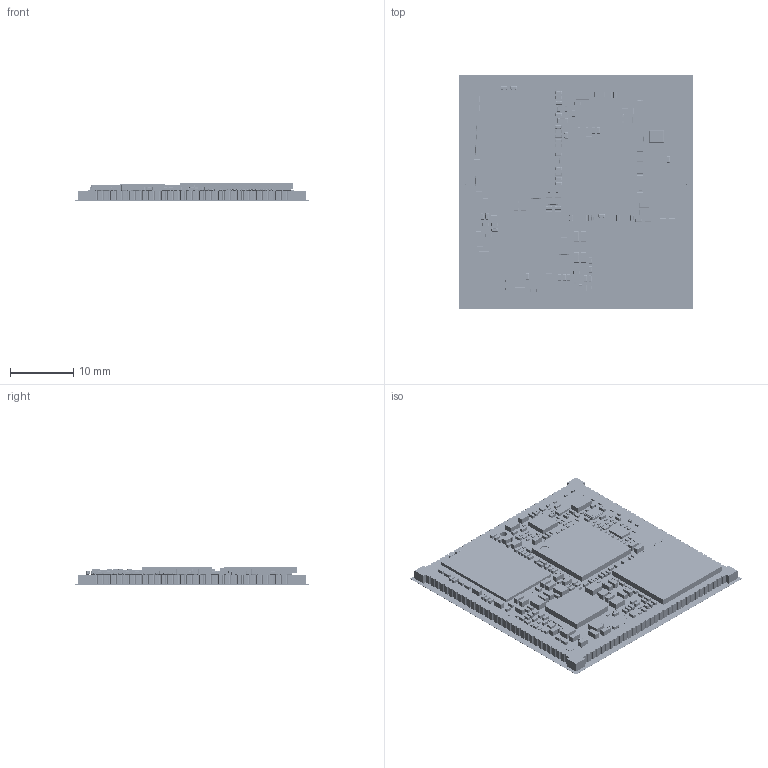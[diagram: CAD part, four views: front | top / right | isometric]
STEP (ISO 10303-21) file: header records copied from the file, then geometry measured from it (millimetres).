
FILE_DESCRIPTION(('STEP AP214'),'1');
FILE_NAME('1607-3_BoardAndModels.step','2024-11-20T15:57:15',(' '),(' '),'Spatial InterOp 3D','XD3DPlugin XRACreate',' ');
FILE_SCHEMA(('automotive_design'));
Length unit declared in the file: millimetre
Products named in the file (137): Submodel-N:\GROUP\DEVELOP\HARDWARE\PCL-077_phyCORE-i.MX93\Design\1607.3\003\PCL-077\Board1_PCB\Layout\3D\Input_S\GRM155R71C224KA12D.xtd; GRM155R71C224KA12D; Submodel-CAP1363_part_simplified_0402-C3; DesignRootModel; Submodel-N:\GROUP\DEVELOP\HARDWARE\PCL-077_phyCORE-i.MX93\Design\1607.3\003\PCL-077\Board1_PCB\Layout\3D\Input_S\GRM155R71C104KA88D.xtd; GRM155R71C104KA88D; Submodel-CAP722_part_simplified_0402-C3; Submodel-N:\GROUP\DEVELOP\HARDWARE\PCL-077_phyCORE-i.MX93\Design\1607.3\003\PCL-077\Board1_PCB\Layout\3D\Input_S\GRM155R70J105KA12J.xtd; GRM155R70J105KA12J; Submodel-CAP4183_part_simplified_0402-C3; Submodel-N:\GROUP\DEVELOP\HARDWARE\PCL-077_phyCORE-i.MX93\Design\1607.3\003\PCL-077\Board1_PCB\Layout\3D\Input_S\CRCW020110R7JNEF.xtd; CRCW020110R7JNEF; Submodel-RES5653_part_simplified_0201; Submodel-N:\GROUP\DEVELOP\HARDWARE\PCL-077_phyCORE-i.MX93\Design\1607.3\003\PCL-077\Board1_PCB\Layout\3D\Input_S\JUMP32.xtd; JUMP32; Submodel-JUMP32_part_simplified_J1X3-0402-C3; Submodel-N:\GROUP\DEVELOP\HARDWARE\PCL-077_phyCORE-i.MX93\Design\1607.3\003\PCL-077\Board1_PCB\Layout\3D\Input_S\RC0603F1005CS.xtd; RC0603F1005CS; Submodel-RES5803_part_simplified_0201; Submodel-N:\GROUP\DEVELOP\HARDWARE\PCL-077_phyCORE-i.MX93\Design\1607.3\003\PCL-077\Board1_PCB\Layout\3D\Input_S\REMOVE_CONN10323.xtd; REMOVE_CONN10323; Submodel-CONN10323_part_simplified_Testpunkt-1mm; Submodel-N:\GROUP\DEVELOP\HARDWARE\PCL-077_phyCORE-i.MX93\Design\1607.3\003\PCL-077\Board1_PCB\Layout\3D\Input_S\qr_4mm-QR Code 4mm.xtd; qr_4mm-QR Code 4mm; Submodel-MECH1053_part_simplified_DMC-4mm-Laser; Submodel-CAP3663_part_simplified_0402-C3; Submodel-N:\GROUP\DEVELOP\HARDWARE\PCL-077_phyCORE-i.MX93\Design\1607.3\003\PCL-077\Board1_PCB\Layout\3D\Input_S\LQM2MPNR47NG0.xtd; LQM2MPNR47NG0; Submodel-IND2133_part_simplified_2016-DFE2016; Submodel-N:\GROUP\DEVELOP\HARDWARE\PCL-077_phyCORE-i.MX93\Design\1607.3\003\PCL-077\Board1_PCB\Layout\3D\Input_S\GRM188Z71A106KA73D.xtd; GRM188Z71A106KA73D; Submodel-CAP3343_part_simplified_0603-C3; Submodel-N:\GROUP\DEVELOP\HARDWARE\PCL-077_phyCORE-i.MX93\Design\1607.3\003\PCL-077\Board1_PCB\Layout\3D\Input_S\OSC923.xtd; OSC923; Submodel-OSC923_part_simplified_QQ-2_comma_5x2mm-JXS22; Submodel-RES5693_part_simplified_0201; Submodel-N:\GROUP\DEVELOP\HARDWARE\PCL-077_phyCORE-i.MX93\Design\1607.3\003\PCL-077\Board1_PCB\Layout\3D\Input_S\REMOVE_CONN2292.xtd; REMOVE_CONN2292; Submodel-CONN2292_part_simplified_Testpunkt-1mm; Submodel-N:\GROUP\DEVELOP\HARDWARE\PCL-077_phyCORE-i.MX93\Design\1607.3\003\PCL-077\Board1_PCB\Layout\3D\Input_S\RCC-0402-1000F.xtd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
Assembly tree (376 placements, depth 5):
  1607-3_BoardAndModels
    DesignRootModel
      Submodel-CAP1363_part_simplified_0402-C3  x4
        Submodel-N:\GROUP\DEVELOP\HARDWARE\PCL-077_phyCORE-i.MX93\Design\1607.3\003\PCL-077\Board1_PCB\Layout\3D\Input_S\GRM155R71C224KA12D.xtd
          GRM155R71C224KA12D
      Submodel-CAP722_part_simplified_0402-C3  x25
        Submodel-N:\GROUP\DEVELOP\HARDWARE\PCL-077_phyCORE-i.MX93\Design\1607.3\003\PCL-077\Board1_PCB\Layout\3D\Input_S\GRM155R71C104KA88D.xtd
          GRM155R71C104KA88D
      Submodel-CAP4183_part_simplified_0402-C3  x70
        Submodel-N:\GROUP\DEVELOP\HARDWARE\PCL-077_phyCORE-i.MX93\Design\1607.3\003\PCL-077\Board1_PCB\Layout\3D\Input_S\GRM155R70J105KA12J.xtd
          GRM155R70J105KA12J
      Submodel-RES5653_part_simplified_0201  x9
        Submodel-N:\GROUP\DEVELOP\HARDWARE\PCL-077_phyCORE-i.MX93\Design\1607.3\003\PCL-077\Board1_PCB\Layout\3D\Input_S\CRCW020110R7JNEF.xtd
          CRCW020110R7JNEF
      Submodel-JUMP32_part_simplified_J1X3-0402-C3  x6
        Submodel-N:\GROUP\DEVELOP\HARDWARE\PCL-077_phyCORE-i.MX93\Design\1607.3\003\PCL-077\Board1_PCB\Layout\3D\Input_S\JUMP32.xtd
          JUMP32
      Submodel-RES5803_part_simplified_0201  x13
        Submodel-N:\GROUP\DEVELOP\HARDWARE\PCL-077_phyCORE-i.MX93\Design\1607.3\003\PCL-077\Board1_PCB\Layout\3D\Input_S\RC0603F1005CS.xtd
          RC0603F1005CS
      Submodel-CONN10323_part_simplified_Testpunkt-1mm  x12
        Submodel-N:\GROUP\DEVELOP\HARDWARE\PCL-077_phyCORE-i.MX93\Design\1607.3\003\PCL-077\Board1_PCB\Layout\3D\Input_S\REMOVE_CONN10323.xtd
          REMOVE_CONN10323
      Submodel-MECH1053_part_simplified_DMC-4mm-Laser
        Submodel-N:\GROUP\DEVELOP\HARDWARE\PCL-077_phyCORE-i.MX93\Design\1607.3\003\PCL-077\Board1_PCB\Layout\3D\Input_S\qr_4mm-QR Code 4mm.xtd
          qr_4mm-QR Code 4mm
      Submodel-CAP3663_part_simplified_0402-C3  x2
        Submodel-N:\GROUP\DEVELOP\HARDWARE\PCL-077_phyCORE-i.MX93\Design\1607.3\003\PCL-077\Board1_PCB\Layout\3D\Input_S\GRM155R71C224KA12D.xtd
          GRM155R71C224KA12D
      Submodel-IND2133_part_simplified_2016-DFE2016  x6
        Submodel-N:\GROUP\DEVELOP\HARDWARE\PCL-077_phyCORE-i.MX93\Design\1607.3\003\PCL-077\Board1_PCB\Layout\3D\Input_S\LQM2MPNR47NG0.xtd
          LQM2MPNR47NG0
      Submodel-CAP3343_part_simplified_0603-C3  x28
        Submodel-N:\GROUP\DEVELOP\HARDWARE\PCL-077_phyCORE-i.MX93\Design\1607.3\003\PCL-077\Board1_PCB\Layout\3D\Input_S\GRM188Z71A106KA73D.xtd
          GRM188Z71A106KA73D
      Submodel-OSC923_part_simplified_QQ-2_comma_5x2mm-JXS22
        Submodel-N:\GROUP\DEVELOP\HARDWARE\PCL-077_phyCORE-i.MX93\Design\1607.3\003\PCL-077\Board1_PCB\Layout\3D\Input_S\OSC923.xtd
          OSC923
      Submodel-RES5693_part_simplified_0201  x6
        Submodel-N:\GROUP\DEVELOP\HARDWARE\PCL-077_phyCORE-i.MX93\Design\1607.3\003\PCL-077\Board1_PCB\Layout\3D\Input_S\RC0603F1005CS.xtd
          RC0603F1005CS
      Submodel-CONN2292_part_simplified_Testpunkt-1mm  x2
        Submodel-N:\GROUP\DEVELOP\HARDWARE\PCL-077_phyCORE-i.MX93\Design\1607.3\003\PCL-077\Board1_PCB\Layout\3D\Input_S\REMOVE_CONN2292.xtd
          REMOVE_CONN2292
      Submodel-RES2872_part_simplified_0402-C3
        Submodel-N:\GROUP\DEVELOP\HARDWARE\PCL-077_phyCORE-i.MX93\Design\1607.3\003\PCL-077\Board1_PCB\Layout\3D\Input_S\RCC-0402-1000F.xtd
          RCC-0402-1000F
      Submodel-RES6713_part_simplified_0201  x3
        Submodel-N:\GROUP\DEVELOP\HARDWARE\PCL-077_phyCORE-i.MX93\Design\1607.3\003\PCL-077\Board1_PCB\Layout\3D\Input_S\RC0603F1005CS_1.xtd
          RC0603F1005CS_1
      Submodel-RES5773_part_simplified_0201  x6
        Submodel-N:\GROUP\DEVELOP\HARDWARE\PCL-077_phyCORE-i.MX93\Design\1607.3\003\PCL-077\Board1_PCB\Layout\3D\Input_S\RC0603F1005CS.xtd
          RC0603F1005CS
      Submodel-CONN13663_part_simplified_Testpunkt-0.5mm  x3
        Submodel-N:\GROUP\DEVELOP\HARDWARE\PCL-077_phyCORE-i.MX93\Design\1607.3\003\PCL-077\Board1_PCB\Layout\3D\Input_S\REMOVE_CONN13663.xtd
          REMOVE_CONN13663
      Submodel-RES5703_part_simplified_0201  x11
        Submodel-N:\GROUP\DEVELOP\HARDWARE\PCL-077_phyCORE-i.MX93\Design\1607.3\003\PCL-077\Board1_PCB\Layout\3D\Input_S\RC0603F1005CS.xtd
          RC0603F1005CS
      Submodel-RES5673_part_simplified_0201  x12
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Bounding box: 37 x 37 x 2.87 mm (x, y, z)
Volume: 2350.4 mm3; surface area: 7891.1 mm2
Topology: 1341 solids, 1449 shells, 11366 faces, 27783 edges, 16815 vertices
Faces by surface type: plane 5999, cylinder 3219, sphere 2128, torus 16, bspline 4
Full cylindrical faces by diameter (mm): 0.16 x1, 1.1 x1, 1.375 x1
Entity records: 151973 total; most frequent: DIRECTION 19619, CARTESIAN_POINT 18854, ORIENTED_EDGE 16498, EDGE_CURVE 8285, AXIS2_PLACEMENT_3D 6851, VERTEX_POINT 5936, LINE 5917, VECTOR 5917
